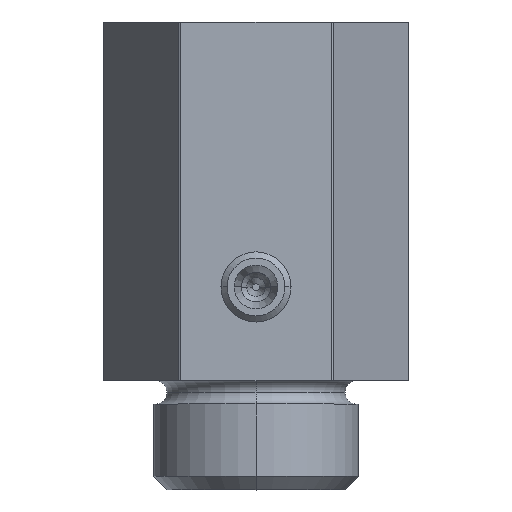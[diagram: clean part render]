
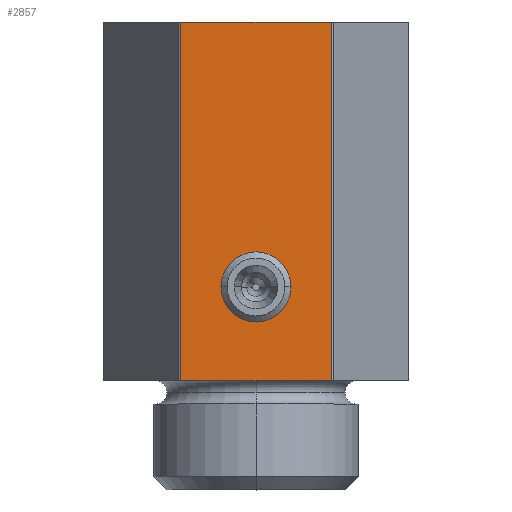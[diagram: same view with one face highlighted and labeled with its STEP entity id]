
A CAD part, top view. The second image highlights one B-rep face of the part: STEP entity #2857.
In plain terms, the highlighted planar face has unit normal (0, 0, 1).
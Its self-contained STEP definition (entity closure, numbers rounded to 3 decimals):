
#341 = EDGE_LOOP ( 'NONE', ( #2166, #2165, #2164, #2163 ) ) ;
#364 = EDGE_LOOP ( 'NONE', ( #2168, #2167 ) ) ;
#1208 = PLANE ( 'NONE',  #2564 ) ;
#1211 = CARTESIAN_POINT ( 'NONE',  ( -4.907, -30.001, 8.5 ) ) ;
#1216 = DIRECTION ( 'NONE',  ( 0., 0., 1. ) ) ;
#1217 = DIRECTION ( 'NONE',  ( 1., 0., 0. ) ) ;
#1365 = CARTESIAN_POINT ( 'NONE',  ( -4.907, -23., 8.5 ) ) ;
#1378 = DIRECTION ( 'NONE',  ( 1., 0., 0. ) ) ;
#1420 = CARTESIAN_POINT ( 'NONE',  ( -4.907, 0., 8.5 ) ) ;
#1421 = DIRECTION ( 'NONE',  ( 1., 0., 0. ) ) ;
#1568 = CARTESIAN_POINT ( 'NONE',  ( 0., -17., 8.5 ) ) ;
#1590 = DIRECTION ( 'NONE',  ( 0., 0., 1. ) ) ;
#1591 = DIRECTION ( 'NONE',  ( 1., 0., 0. ) ) ;
#2163 = ORIENTED_EDGE ( 'NONE', *, *, #2912, .T. ) ;
#2164 = ORIENTED_EDGE ( 'NONE', *, *, #2779, .T. ) ;
#2165 = ORIENTED_EDGE ( 'NONE', *, *, #2929, .F. ) ;
#2166 = ORIENTED_EDGE ( 'NONE', *, *, #2782, .T. ) ;
#2167 = ORIENTED_EDGE ( 'NONE', *, *, #2990, .F. ) ;
#2168 = ORIENTED_EDGE ( 'NONE', *, *, #2761, .F. ) ;
#2282 = VERTEX_POINT ( 'NONE', #4533 ) ;
#2318 = VERTEX_POINT ( 'NONE', #4519 ) ;
#2321 = VERTEX_POINT ( 'NONE', #4514 ) ;
#2359 = VERTEX_POINT ( 'NONE', #4468 ) ;
#2375 = VERTEX_POINT ( 'NONE', #4439 ) ;
#2382 = VERTEX_POINT ( 'NONE', #4425 ) ;
#2564 = AXIS2_PLACEMENT_3D ( 'NONE', #1211, #1216, #1217 ) ;
#2639 = AXIS2_PLACEMENT_3D ( 'NONE', #1568, #1590, #1591 ) ;
#2761 = EDGE_CURVE ( 'NONE', #2359, #2282, #3295, .T. ) ;
#2779 = EDGE_CURVE ( 'NONE', #2382, #2318, #3313, .T. ) ;
#2782 = EDGE_CURVE ( 'NONE', #2321, #2375, #3316, .T. ) ;
#2857 = ADVANCED_FACE ( 'NONE', ( #3369, #3382 ), #1208, .T. ) ;
#2912 = EDGE_CURVE ( 'NONE', #2318, #2321, #3481, .T. ) ;
#2929 = EDGE_CURVE ( 'NONE', #2382, #2375, #3486, .T. ) ;
#2990 = EDGE_CURVE ( 'NONE', #2282, #2359, #3595, .T. ) ;
#3291 = VECTOR ( 'NONE', #4240, 1000. ) ;
#3295 = CIRCLE ( 'NONE', #4402, 2. ) ;
#3313 = LINE ( 'NONE', #4234, #3291 ) ;
#3316 = LINE ( 'NONE', #4244, #3319 ) ;
#3319 = VECTOR ( 'NONE', #4247, 1000. ) ;
#3369 = FACE_BOUND ( 'NONE', #364, .T. ) ;
#3382 = FACE_OUTER_BOUND ( 'NONE', #341, .T. ) ;
#3462 = VECTOR ( 'NONE', #1378, 1000. ) ;
#3481 = LINE ( 'NONE', #1365, #3462 ) ;
#3486 = LINE ( 'NONE', #1420, #3503 ) ;
#3503 = VECTOR ( 'NONE', #1421, 1000. ) ;
#3595 = CIRCLE ( 'NONE', #2639, 2. ) ;
#4171 = CARTESIAN_POINT ( 'NONE',  ( 0., -17., 8.5 ) ) ;
#4172 = DIRECTION ( 'NONE',  ( 0., 0., 1. ) ) ;
#4173 = DIRECTION ( 'NONE',  ( 1., 0., 0. ) ) ;
#4234 = CARTESIAN_POINT ( 'NONE',  ( -4.827, 17.343, 8.5 ) ) ;
#4240 = DIRECTION ( 'NONE',  ( 0., -1., 0. ) ) ;
#4244 = CARTESIAN_POINT ( 'NONE',  ( 4.827, 17.343, 8.5 ) ) ;
#4247 = DIRECTION ( 'NONE',  ( 0., 1., 0. ) ) ;
#4402 = AXIS2_PLACEMENT_3D ( 'NONE', #4171, #4172, #4173 ) ;
#4425 = CARTESIAN_POINT ( 'NONE',  ( -4.827, 0., 8.5 ) ) ;
#4439 = CARTESIAN_POINT ( 'NONE',  ( 4.827, 0., 8.5 ) ) ;
#4468 = CARTESIAN_POINT ( 'NONE',  ( 2., -17., 8.5 ) ) ;
#4514 = CARTESIAN_POINT ( 'NONE',  ( 4.827, -23., 8.5 ) ) ;
#4519 = CARTESIAN_POINT ( 'NONE',  ( -4.827, -23., 8.5 ) ) ;
#4533 = CARTESIAN_POINT ( 'NONE',  ( -2., -17., 8.5 ) ) ;
